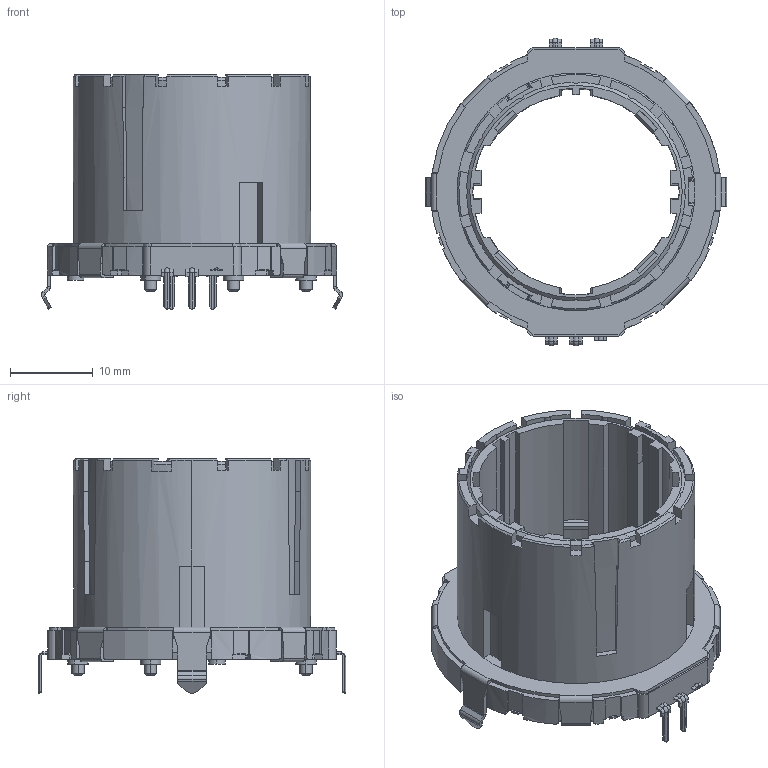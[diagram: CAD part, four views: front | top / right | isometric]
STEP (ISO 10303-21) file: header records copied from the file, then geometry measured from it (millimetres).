
FILE_DESCRIPTION (( 'STEP AP214' ), '1' );
FILE_NAME ('EC35AH(h25-30p).STEP', '2017-09-14T06:17:00', ( 'user' ), ( 'Hewlett-Packard Company' ), 'SwSTEP 2.0', 'SolidWorks 2014', '' );
FILE_SCHEMA (( 'AUTOMOTIVE_DESIGN' ));
Length unit declared in the file: millimetre
Products named in the file (1): EC35AH(h25-30p)
Bounding box: 36.5 x 37.3 x 28.4 mm (x, y, z)
Volume: 5614.5 mm3; surface area: 6048.8 mm2
Topology: 1 solids, 1 shells, 858 faces, 2339 edges, 1488 vertices
Faces by surface type: plane 578, cylinder 239, cone 25, bspline 16
Entity records: 38401 total; most frequent: CARTESIAN_POINT 7527, ORIENTED_EDGE 4678, DIRECTION 4428, EDGE_CURVE 2339, LINE 1618, VECTOR 1618, VERTEX_POINT 1488, AXIS2_PLACEMENT_3D 1405
